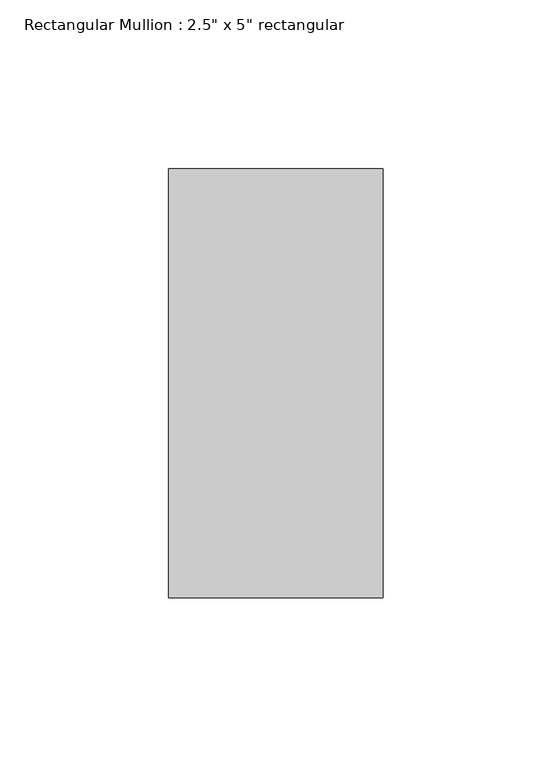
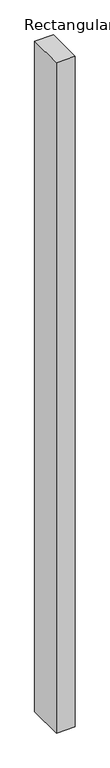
"""IFC4 building model written with IfcOpenShell, lengths in millimetres: member geometry."""

from ifc_helpers import new_model, si_unit, frame, origin, place, context, project, spatial, polyline, outline, extrude, source, transform, mapped, element, save


def member_92b946c3(model_context):
    return source(origin(), model_context, "Body", "SweptSolid", [
        extrude(outline(polyline([(31.75, 63.5), (31.75, -63.5), (-31.75, -63.5), (-31.75, 63.5), (31.75, 63.5)])), frame((0.0, 0.0, -2406.65), z_axis=(0.0, 0.0, 1.0), x_axis=(1.0, 0.0, 0.0)), (0.0, 0.0, 1.0), 2406.65),
    ])


if __name__ == "__main__":
    model = new_model("IFC4")
    model_context = context("Model", 3, world=origin())
    ifc_project = project(units=[si_unit("LENGTHUNIT", "METRE", prefix="MILLI")], contexts=[model_context])
    site = spatial("IfcSite", under=ifc_project)
    building = spatial("IfcBuilding", under=site)
    placement = place(None, origin())
    member_shape = member_92b946c3(model_context)
    element("IfcMember", 1, ObjectType="Rectangular Mullion : 2.5\" x 5\" rectangular", at=placement, inside=building, context=model_context, shape_type="MappedRepresentation", body=[
        mapped(member_shape, transform((0.0, 0.0, 0.0), x_axis=(1.0, 0.0, 0.0), y_axis=(0.0, 1.0, 0.0), z_axis=(0.0, 0.0, 1.0))),
    ])
    save(model, "model.ifc")
